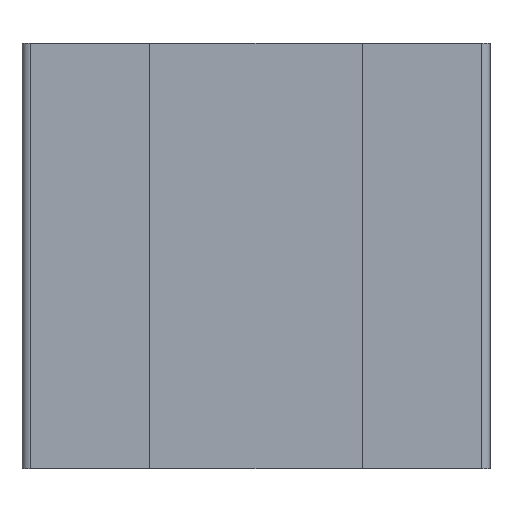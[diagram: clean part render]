
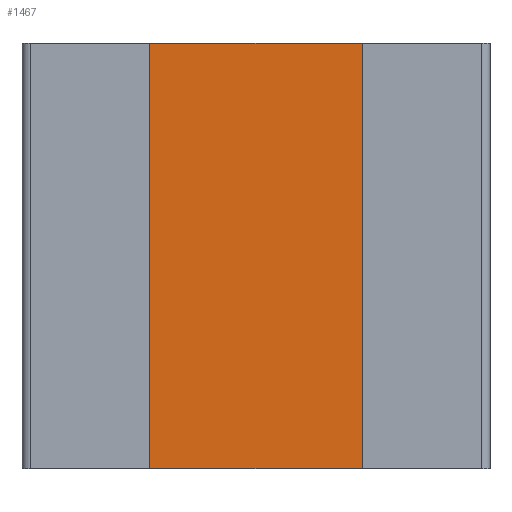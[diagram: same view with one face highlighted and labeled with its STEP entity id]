
A CAD part, front view. The second image highlights one B-rep face of the part: STEP entity #1467.
In plain terms, the highlighted planar face has unit normal (0, -1, 0).
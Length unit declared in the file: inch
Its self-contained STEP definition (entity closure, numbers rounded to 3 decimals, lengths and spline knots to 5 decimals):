
#57=FACE_OUTER_BOUND('',#139,.T.);
#139=EDGE_LOOP('',(#974,#975,#976,#977));
#221=LINE('',#2078,#413);
#226=LINE('',#2088,#418);
#227=LINE('',#2091,#419);
#228=LINE('',#2092,#420);
#413=VECTOR('',#1670,0.053);
#418=VECTOR('',#1679,0.05);
#419=VECTOR('',#1682,0.053);
#420=VECTOR('',#1683,0.05);
#602=VERTEX_POINT('',#2071);
#605=VERTEX_POINT('',#2076);
#608=VERTEX_POINT('',#2086);
#609=VERTEX_POINT('',#2090);
#749=EDGE_CURVE('',#605,#602,#221,.T.);
#754=EDGE_CURVE('',#605,#608,#226,.T.);
#755=EDGE_CURVE('',#609,#608,#227,.T.);
#756=EDGE_CURVE('',#602,#609,#228,.T.);
#974=ORIENTED_EDGE('',*,*,#754,.T.);
#975=ORIENTED_EDGE('',*,*,#755,.F.);
#976=ORIENTED_EDGE('',*,*,#756,.F.);
#977=ORIENTED_EDGE('',*,*,#749,.F.);
#1397=PLANE('',#1560);
#1467=ADVANCED_FACE('',(#57),#1397,.T.);
#1560=AXIS2_PLACEMENT_3D('',#2089,#1680,#1681);
#1670=DIRECTION('',(-1.,0.,0.));
#1679=DIRECTION('',(0.,0.,1.));
#1680=DIRECTION('center_axis',(0.,-1.,0.));
#1681=DIRECTION('ref_axis',(1.,0.,0.));
#1682=DIRECTION('',(1.,0.,0.));
#1683=DIRECTION('',(0.,0.,1.));
#2071=CARTESIAN_POINT('',(-0.0265,0.001,-0.025));
#2076=CARTESIAN_POINT('',(0.0265,0.001,-0.025));
#2078=CARTESIAN_POINT('',(-0.0265,0.001,-0.025));
#2086=CARTESIAN_POINT('',(0.0265,0.001,0.025));
#2088=CARTESIAN_POINT('',(0.0265,0.001,0.));
#2089=CARTESIAN_POINT('Origin',(-0.0265,0.001,0.));
#2090=CARTESIAN_POINT('',(-0.0265,0.001,0.025));
#2091=CARTESIAN_POINT('',(-0.0265,0.001,0.025));
#2092=CARTESIAN_POINT('',(-0.0265,0.001,0.));
